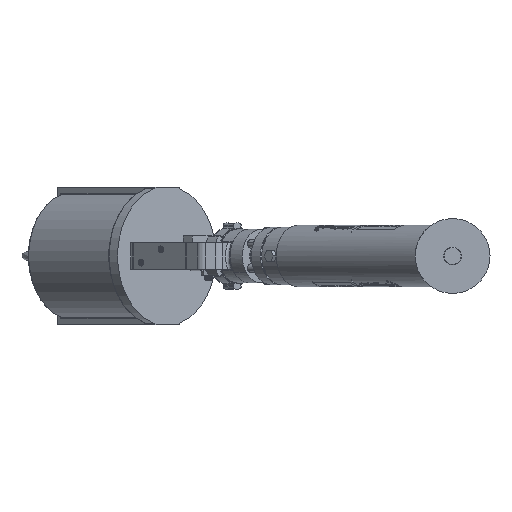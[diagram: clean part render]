
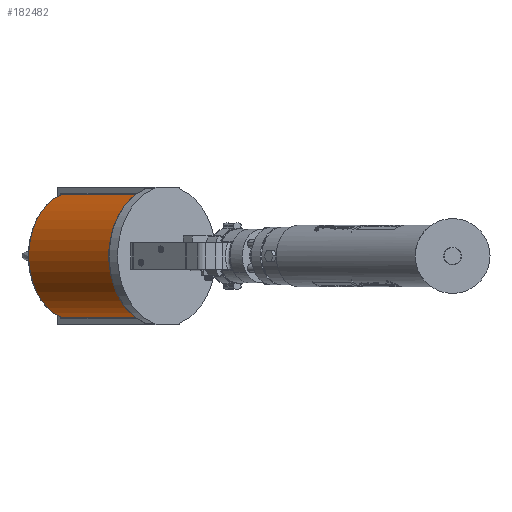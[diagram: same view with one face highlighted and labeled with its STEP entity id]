
A CAD part, left-side view. The second image highlights one B-rep face of the part: STEP entity #182482.
In plain terms, the highlighted cylindrical face has radius 76.2 mm (diameter 152.4 mm), a partial arc.
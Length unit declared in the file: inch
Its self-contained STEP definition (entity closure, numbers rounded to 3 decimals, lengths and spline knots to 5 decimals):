
#2767 = DIRECTION ( 'NONE',  ( 0.707, -0.707, 0. ) ) ;
#8413 = CYLINDRICAL_SURFACE ( 'NONE', #68267, 3. ) ;
#19480 = ORIENTED_EDGE ( 'NONE', *, *, #159945, .T. ) ;
#22686 = CARTESIAN_POINT ( 'NONE',  ( 11.73926, 12.94748, -2.87578 ) ) ;
#23508 = EDGE_CURVE ( 'NONE', #253027, #38885, #182141, .T. ) ;
#26671 = EDGE_CURVE ( 'NONE', #38885, #200382, #198366, .T. ) ;
#30619 = ORIENTED_EDGE ( 'NONE', *, *, #235472, .T. ) ;
#33713 = CARTESIAN_POINT ( 'NONE',  ( 13.24097, 14.44972, 2.87567 ) ) ;
#38885 = VERTEX_POINT ( 'NONE', #247179 ) ;
#43167 = CIRCLE ( 'NONE', #138513, 3. ) ;
#44939 = VECTOR ( 'NONE', #222380, 39.37008 ) ;
#54742 = VECTOR ( 'NONE', #227787, 39.37008 ) ;
#56122 = CARTESIAN_POINT ( 'NONE',  ( 13.24082, 14.44983, 2.87561 ) ) ;
#66641 = VERTEX_POINT ( 'NONE', #56122 ) ;
#68267 = AXIS2_PLACEMENT_3D ( 'NONE', #186084, #87482, #245769 ) ;
#68628 = VERTEX_POINT ( 'NONE', #91425 ) ;
#69010 = CARTESIAN_POINT ( 'NONE',  ( 13.24082, 14.44983, -2.87561 ) ) ;
#75169 = CARTESIAN_POINT ( 'NONE',  ( 13.24082, 14.44983, 2.87561 ) ) ;
#78796 = ORIENTED_EDGE ( 'NONE', *, *, #146674, .F. ) ;
#87482 = DIRECTION ( 'NONE',  ( -0.707, -0.707, 0. ) ) ;
#89415 = CARTESIAN_POINT ( 'NONE',  ( 13.24082, 14.44983, -2.87561 ) ) ;
#89748 = CARTESIAN_POINT ( 'NONE',  ( 13.24097, 14.44972, -2.87567 ) ) ;
#91425 = CARTESIAN_POINT ( 'NONE',  ( 17.09306, 18.30128, 2.87578 ) ) ;
#100093 = ORIENTED_EDGE ( 'NONE', *, *, #23508, .T. ) ;
#104807 = ORIENTED_EDGE ( 'NONE', *, *, #110945, .T. ) ;
#106929 = FACE_OUTER_BOUND ( 'NONE', #210195, .T. ) ;
#110945 = EDGE_CURVE ( 'NONE', #201063, #68628, #191418, .T. ) ;
#136261 = CIRCLE ( 'NONE', #235720, 3. ) ;
#138513 = AXIS2_PLACEMENT_3D ( 'NONE', #199025, #236711, #179562 ) ;
#141472 = CARTESIAN_POINT ( 'NONE',  ( 17.69717, 17.69717, 0. ) ) ;
#146674 = EDGE_CURVE ( 'NONE', #253027, #68628, #136261, .T. ) ;
#159945 = EDGE_CURVE ( 'NONE', #66641, #201063, #202524, .T. ) ;
#162489 = CARTESIAN_POINT ( 'NONE',  ( 13.24127, 14.4495, -2.87578 ) ) ;
#179562 = DIRECTION ( 'NONE',  ( 0.707, -0.707, 0. ) ) ;
#182141 = LINE ( 'NONE', #22686, #44939 ) ;
#182482 = ADVANCED_FACE ( 'NONE', ( #106929 ), #8413, .T. ) ;
#182935 = DIRECTION ( 'NONE',  ( 0.707, 0.707, 0. ) ) ;
#186084 = CARTESIAN_POINT ( 'NONE',  ( 12.34337, 12.34337, 0. ) ) ;
#190143 = CARTESIAN_POINT ( 'NONE',  ( 11.73926, 12.94748, 2.87578 ) ) ;
#191418 = LINE ( 'NONE', #190143, #54742 ) ;
#191547 = CARTESIAN_POINT ( 'NONE',  ( 13.24127, 14.4495, 2.87578 ) ) ;
#191942 = CARTESIAN_POINT ( 'NONE',  ( 13.24127, 14.4495, 2.87578 ) ) ;
#194505 = CARTESIAN_POINT ( 'NONE',  ( 13.24112, 14.44961, 2.87572 ) ) ;
#198366 = B_SPLINE_CURVE_WITH_KNOTS ( 'NONE', 3,
 ( #162489, #224709, #89748, #69010 ),
 .UNSPECIFIED., .F., .F.,
 ( 4, 4 ),
 ( 0., 1. ),
 .UNSPECIFIED. ) ;
#199025 = CARTESIAN_POINT ( 'NONE',  ( 13.84533, 13.84533, 0. ) ) ;
#200382 = VERTEX_POINT ( 'NONE', #89415 ) ;
#201063 = VERTEX_POINT ( 'NONE', #191547 ) ;
#202524 = B_SPLINE_CURVE_WITH_KNOTS ( 'NONE', 3,
 ( #75169, #33713, #194505, #191942 ),
 .UNSPECIFIED., .F., .F.,
 ( 4, 4 ),
 ( 0., 1. ),
 .UNSPECIFIED. ) ;
#210195 = EDGE_LOOP ( 'NONE', ( #30619, #19480, #104807, #78796, #100093, #222382 ) ) ;
#222380 = DIRECTION ( 'NONE',  ( -0.707, -0.707, 0. ) ) ;
#222382 = ORIENTED_EDGE ( 'NONE', *, *, #26671, .T. ) ;
#224709 = CARTESIAN_POINT ( 'NONE',  ( 13.24112, 14.44961, -2.87572 ) ) ;
#227787 = DIRECTION ( 'NONE',  ( 0.707, 0.707, 0. ) ) ;
#235472 = EDGE_CURVE ( 'NONE', #200382, #66641, #43167, .T. ) ;
#235720 = AXIS2_PLACEMENT_3D ( 'NONE', #141472, #182935, #2767 ) ;
#236711 = DIRECTION ( 'NONE',  ( 0.707, 0.707, 0. ) ) ;
#245769 = DIRECTION ( 'NONE',  ( 0., 0., -1. ) ) ;
#247179 = CARTESIAN_POINT ( 'NONE',  ( 13.24127, 14.4495, -2.87578 ) ) ;
#252990 = CARTESIAN_POINT ( 'NONE',  ( 17.09306, 18.30128, -2.87578 ) ) ;
#253027 = VERTEX_POINT ( 'NONE', #252990 ) ;
